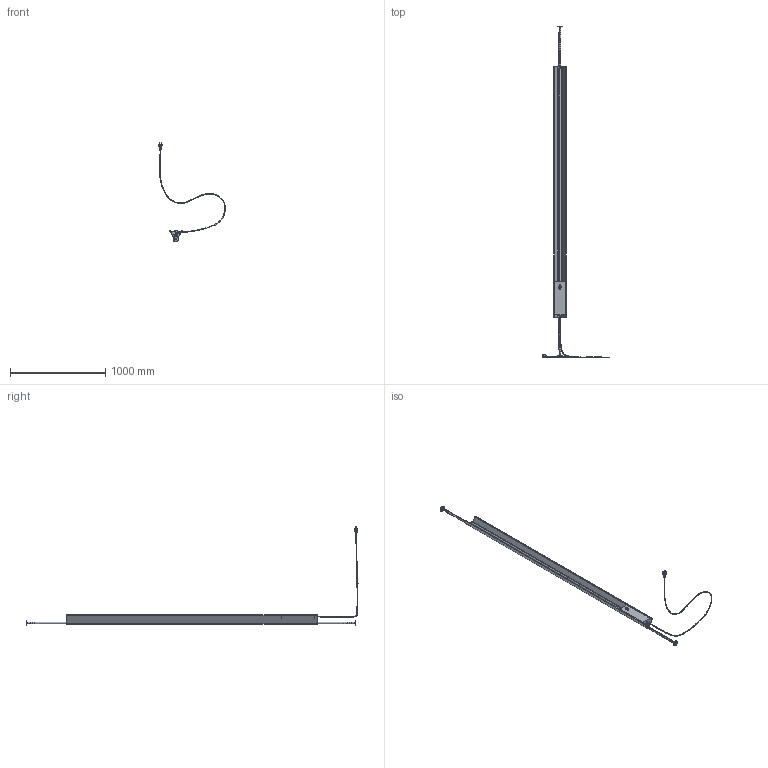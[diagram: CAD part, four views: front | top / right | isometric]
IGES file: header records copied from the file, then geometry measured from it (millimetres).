
Start section: SolidWorks IGES file using analytic representation for surfaces
Global section: file name: H:\Drive condivisi\Ufficio Tecnico\Graphics\Files 3D for Sito Web\LT8\ATP-T13-F201-R00_27.IGS; native system: SolidWorks 2023; preprocessor: SolidWorks 2023; author: Tecnico; date: 230627.145617; units: millimetre
Bounding box: 701.27 x 3483.8 x 1045.38 mm (x, y, z)
Surface area: 2181193.5 mm2 (no closed solid volume)
Topology: 0 solids, 0 shells, 1165 faces, 19186 edges, 19077 vertices
Faces by surface type: revolution 640, bspline 525
